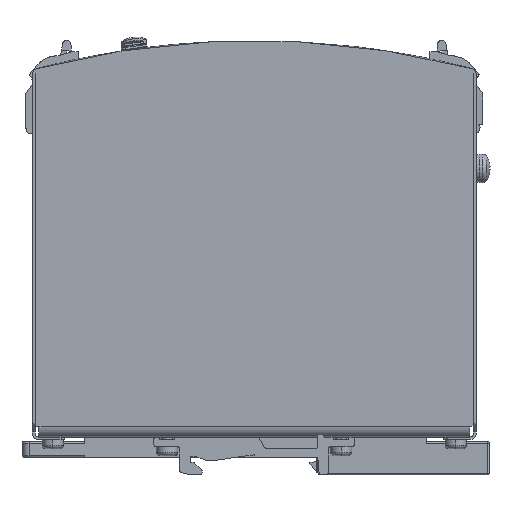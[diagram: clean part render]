
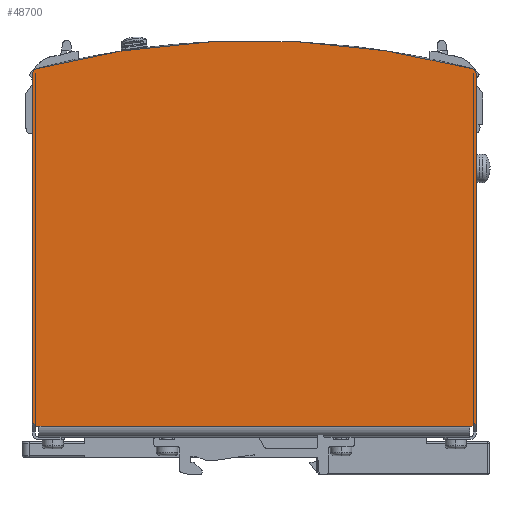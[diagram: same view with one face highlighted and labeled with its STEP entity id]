
A CAD part, left-side view. The second image highlights one B-rep face of the part: STEP entity #48700.
In plain terms, the highlighted planar face has unit normal (-1, 0, 0).
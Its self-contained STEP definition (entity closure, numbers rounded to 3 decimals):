
#775=DIRECTION('',(0.,1.,0.));
#776=VECTOR('',#775,4.736);
#777=CARTESIAN_POINT('',(-0.63,-2.368,
-2.047));
#778=LINE('',#777,#776);
#5927=CARTESIAN_POINT('',(-0.63,0.,-7.283));
#5928=DIRECTION('',(1.,0.,0.));
#5929=DIRECTION('',(0.,0.252,0.968));
#5930=AXIS2_PLACEMENT_3D('',#5927,#5928,#5929);
#5932=CARTESIAN_POINT('',(-0.63,-2.372,
1.822));
#5933=DIRECTION('',(-1.,0.,0.));
#5934=DIRECTION('',(0.,-1.,0.));
#5935=AXIS2_PLACEMENT_3D('',#5932,#5933,#5934);
#5937=CARTESIAN_POINT('',(-0.63,-2.372,
1.822));
#5938=DIRECTION('',(1.,0.,0.));
#5939=DIRECTION('',(0.,-0.899,0.437));
#5940=AXIS2_PLACEMENT_3D('',#5937,#5938,#5939);
#5942=CARTESIAN_POINT('',(-0.63,-2.388,
1.838));
#5943=DIRECTION('',(-1.,0.,0.));
#5944=DIRECTION('',(0.,-1.,0.));
#5945=AXIS2_PLACEMENT_3D('',#5942,#5943,#5944);
#5947=DIRECTION('',(0.,0.,1.));
#5948=VECTOR('',#5947,3.886);
#5949=CARTESIAN_POINT('',(-0.63,-2.407,
-2.047));
#5950=LINE('',#5949,#5948);
#5951=DIRECTION('',(0.,-1.,0.));
#5952=VECTOR('',#5951,0.039);
#5953=CARTESIAN_POINT('',(-0.63,-2.368,
-2.047));
#5954=LINE('',#5953,#5952);
#5955=DIRECTION('',(0.,-1.,0.));
#5956=VECTOR('',#5955,0.039);
#5957=CARTESIAN_POINT('',(-0.63,2.407,
-2.047));
#5958=LINE('',#5957,#5956);
#5959=DIRECTION('',(0.,0.,-1.));
#5960=VECTOR('',#5959,3.886);
#5961=CARTESIAN_POINT('',(-0.63,2.407,
1.838));
#5962=LINE('',#5961,#5960);
#5963=CARTESIAN_POINT('',(-0.63,2.388,
1.838));
#5964=DIRECTION('',(-1.,0.,0.));
#5965=DIRECTION('',(0.,0.999,0.05));
#5966=AXIS2_PLACEMENT_3D('',#5963,#5964,#5965);
#5968=CARTESIAN_POINT('',(-0.63,2.372,
1.822));
#5969=DIRECTION('',(1.,0.,0.));
#5970=DIRECTION('',(0.,1.,0.));
#5971=AXIS2_PLACEMENT_3D('',#5968,#5969,#5970);
#5973=DIRECTION('',(0.,0.,1.));
#5974=VECTOR('',#5973,3.844);
#5975=CARTESIAN_POINT('',(-0.63,2.411,
-2.022));
#5976=LINE('',#5975,#5974);
#5977=DIRECTION('',(0.,0.,-1.));
#5978=VECTOR('',#5977,3.844);
#5979=CARTESIAN_POINT('',(-0.63,2.441,
1.822));
#5980=LINE('',#5979,#5978);
#5981=CARTESIAN_POINT('',(-0.63,2.372,
1.822));
#5982=DIRECTION('',(-1.,0.,0.));
#5983=DIRECTION('',(0.,0.252,0.968));
#5984=AXIS2_PLACEMENT_3D('',#5981,#5982,#5983);
#9713=DIRECTION('',(0.,0.,1.));
#9714=VECTOR('',#9713,3.844);
#9715=CARTESIAN_POINT('',(-0.63,-2.411,
-2.022));
#9716=LINE('',#9715,#9714);
#9743=DIRECTION('',(0.,1.,0.));
#9744=VECTOR('',#9743,0.03);
#9745=CARTESIAN_POINT('',(-0.63,-2.441,
-2.022));
#9746=LINE('',#9745,#9744);
#9763=DIRECTION('',(0.,0.,-1.));
#9764=VECTOR('',#9763,3.844);
#9765=CARTESIAN_POINT('',(-0.63,-2.441,
1.822));
#9766=LINE('',#9765,#9764);
#16506=DIRECTION('',(0.,1.,0.));
#16507=VECTOR('',#16506,0.03);
#16508=CARTESIAN_POINT('',(-0.63,2.411,
-2.022));
#16509=LINE('',#16508,#16507);
#38874=CARTESIAN_POINT('',(-0.63,-2.368,
-2.047));
#38875=CARTESIAN_POINT('',(-0.63,2.368,
-2.047));
#38876=VERTEX_POINT('',#38874);
#38877=VERTEX_POINT('',#38875);
#38894=CARTESIAN_POINT('',(-0.63,-2.407,
-2.047));
#38895=VERTEX_POINT('',#38894);
#38896=CARTESIAN_POINT('',(-0.63,-2.407,
1.838));
#38897=VERTEX_POINT('',#38896);
#38898=CARTESIAN_POINT('',(-0.63,2.407,
1.838));
#38899=CARTESIAN_POINT('',(-0.63,2.407,
-2.047));
#38900=VERTEX_POINT('',#38898);
#38901=VERTEX_POINT('',#38899);
#39439=CARTESIAN_POINT('',(-0.63,2.389,
1.889));
#39440=VERTEX_POINT('',#39439);
#39442=CARTESIAN_POINT('',(-0.63,-2.389,
1.889));
#39444=VERTEX_POINT('',#39442);
#39503=CARTESIAN_POINT('',(-0.63,2.411,
1.822));
#39504=VERTEX_POINT('',#39503);
#39505=CARTESIAN_POINT('',(-0.63,2.411,
-2.022));
#39506=VERTEX_POINT('',#39505);
#40341=CARTESIAN_POINT('',(-0.63,2.441,
-2.022));
#40342=VERTEX_POINT('',#40341);
#40343=CARTESIAN_POINT('',(-0.63,2.441,
1.822));
#40344=VERTEX_POINT('',#40343);
#41185=CARTESIAN_POINT('',(-0.63,-2.441,
1.822));
#41186=VERTEX_POINT('',#41185);
#41189=CARTESIAN_POINT('',(-0.63,-2.411,
1.822));
#41190=VERTEX_POINT('',#41189);
#41203=CARTESIAN_POINT('',(-0.63,-2.411,
-2.022));
#41204=VERTEX_POINT('',#41203);
#41205=CARTESIAN_POINT('',(-0.63,-2.441,
-2.022));
#41206=VERTEX_POINT('',#41205);
#42927=CARTESIAN_POINT('',(-0.63,-2.407,
1.839));
#42928=VERTEX_POINT('',#42927);
#42929=CARTESIAN_POINT('',(-0.63,2.407,
1.839));
#42930=VERTEX_POINT('',#42929);
#48660=CARTESIAN_POINT('',(-0.63,-0.544,
-0.611));
#48661=DIRECTION('',(1.,0.,0.));
#48662=DIRECTION('',(0.,0.,-1.));
#48663=AXIS2_PLACEMENT_3D('',#48660,#48661,#48662);
#48664=PLANE('',#48663);
#48665=ORIENTED_EDGE('',*,*,#47982,.T.);
#48667=ORIENTED_EDGE('',*,*,#48666,.F.);
#48669=ORIENTED_EDGE('',*,*,#48668,.T.);
#48671=ORIENTED_EDGE('',*,*,#48670,.T.);
#48673=ORIENTED_EDGE('',*,*,#48672,.T.);
#48675=ORIENTED_EDGE('',*,*,#48674,.F.);
#48677=ORIENTED_EDGE('',*,*,#48676,.F.);
#48679=ORIENTED_EDGE('',*,*,#48678,.F.);
#48681=ORIENTED_EDGE('',*,*,#48680,.F.);
#48682=ORIENTED_EDGE('',*,*,#46645,.T.);
#48684=ORIENTED_EDGE('',*,*,#48683,.F.);
#48686=ORIENTED_EDGE('',*,*,#48685,.F.);
#48688=ORIENTED_EDGE('',*,*,#48687,.F.);
#48690=ORIENTED_EDGE('',*,*,#48689,.F.);
#48691=ORIENTED_EDGE('',*,*,#46895,.F.);
#48693=ORIENTED_EDGE('',*,*,#48692,.T.);
#48695=ORIENTED_EDGE('',*,*,#48694,.F.);
#48697=ORIENTED_EDGE('',*,*,#48696,.F.);
#48698=EDGE_LOOP('',(#48665,#48667,#48669,#48671,#48673,#48675,#48677,#48679,
#48681,#48682,#48684,#48686,#48688,#48690,#48691,#48693,#48695,#48697));
#48699=FACE_OUTER_BOUND('',#48698,.F.);
#48700=ADVANCED_FACE('',(#48699),#48664,.F.);
#5931=CIRCLE('',#5930,9.478);
#5936=CIRCLE('',#5935,0.069);
#5941=CIRCLE('',#5940,0.039);
#5946=CIRCLE('',#5945,0.02);
#5967=CIRCLE('',#5966,0.02);
#5972=CIRCLE('',#5971,0.039);
#5985=CIRCLE('',#5984,0.069);
#46645=EDGE_CURVE('',#38876,#38877,#778,.T.);
#46895=EDGE_CURVE('',#39506,#39504,#5976,.T.);
#47982=EDGE_CURVE('',#39440,#39444,#5931,.T.);
#48666=EDGE_CURVE('',#41186,#39444,#5936,.T.);
#48668=EDGE_CURVE('',#41186,#41206,#9766,.T.);
#48670=EDGE_CURVE('',#41206,#41204,#9746,.T.);
#48672=EDGE_CURVE('',#41204,#41190,#9716,.T.);
#48674=EDGE_CURVE('',#42928,#41190,#5941,.T.);
#48676=EDGE_CURVE('',#38897,#42928,#5946,.T.);
#48678=EDGE_CURVE('',#38895,#38897,#5950,.T.);
#48680=EDGE_CURVE('',#38876,#38895,#5954,.T.);
#48683=EDGE_CURVE('',#38901,#38877,#5958,.T.);
#48685=EDGE_CURVE('',#38900,#38901,#5962,.T.);
#48687=EDGE_CURVE('',#42930,#38900,#5967,.T.);
#48689=EDGE_CURVE('',#39504,#42930,#5972,.T.);
#48692=EDGE_CURVE('',#39506,#40342,#16509,.T.);
#48694=EDGE_CURVE('',#40344,#40342,#5980,.T.);
#48696=EDGE_CURVE('',#39440,#40344,#5985,.T.);
